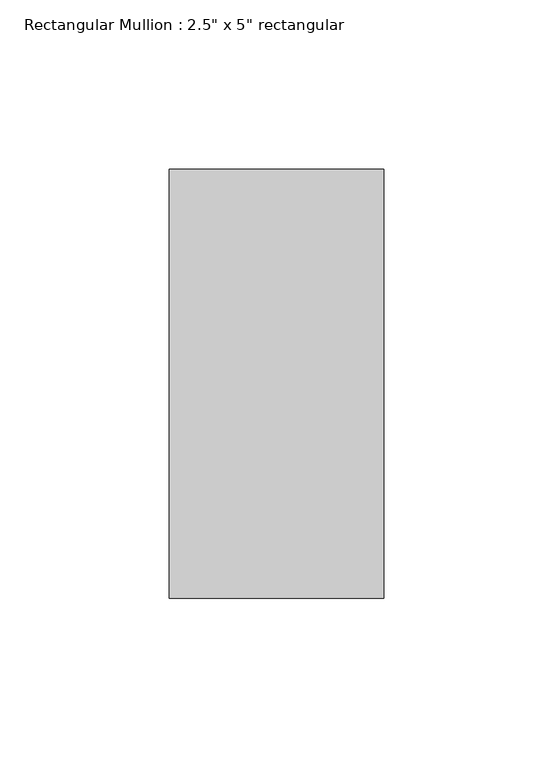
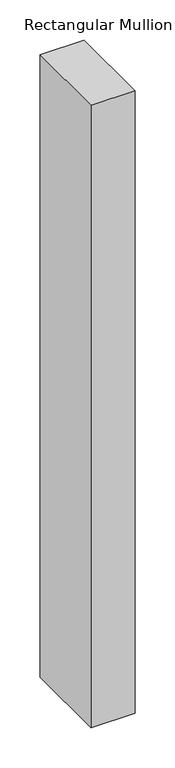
"""IFC4 building model written with IfcOpenShell, lengths in millimetres: member geometry."""

from ifc_helpers import new_model, si_unit, frame, origin, place, context, project, spatial, polyline, outline, extrude, source, transform, mapped, element, save


def member_ec52078f(model_context):
    return source(origin(), model_context, "Body", "SweptSolid", [
        extrude(outline(polyline([(31.75, 63.5), (31.75, -63.5), (-31.75, -63.5), (-31.75, 63.5), (31.75, 63.5)])), frame((0.0, 0.0, -946.15), z_axis=(0.0, 0.0, 1.0), x_axis=(1.0, 0.0, 0.0)), (0.0, 0.0, 1.0), 946.15),
    ])


if __name__ == "__main__":
    model = new_model("IFC4")
    model_context = context("Model", 3, world=origin())
    ifc_project = project(units=[si_unit("LENGTHUNIT", "METRE", prefix="MILLI")], contexts=[model_context])
    site = spatial("IfcSite", under=ifc_project)
    building = spatial("IfcBuilding", under=site)
    placement = place(None, origin())
    member_shape = member_ec52078f(model_context)
    element("IfcMember", 1, ObjectType="Rectangular Mullion : 2.5\" x 5\" rectangular", at=placement, inside=building, context=model_context, shape_type="MappedRepresentation", body=[
        mapped(member_shape, transform((0.0, 0.0, 0.0), x_axis=(1.0, 0.0, 0.0), y_axis=(0.0, 1.0, 0.0), z_axis=(0.0, 0.0, 1.0))),
    ])
    save(model, "model.ifc")
